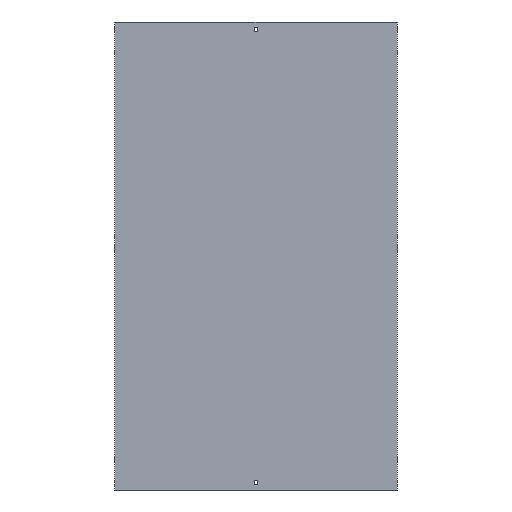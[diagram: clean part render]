
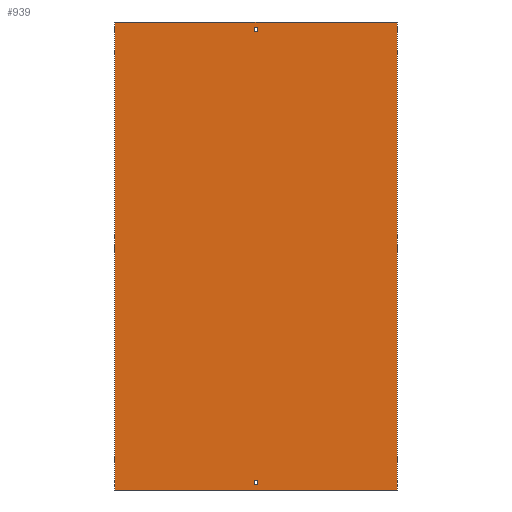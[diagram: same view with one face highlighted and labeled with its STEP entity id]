
A CAD part, front view. The second image highlights one B-rep face of the part: STEP entity #939.
In plain terms, the highlighted planar face has unit normal (0, -1, 0).
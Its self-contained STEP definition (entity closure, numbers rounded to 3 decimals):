
#11 = CARTESIAN_POINT ( 'NONE',  ( -3.25, 0., 479. ) ) ;
#20 = DIRECTION ( 'NONE',  ( -1., 0., 0. ) ) ;
#37 = DIRECTION ( 'NONE',  ( 0., 1., 0. ) ) ;
#76 = DIRECTION ( 'NONE',  ( 0., 0., 1. ) ) ;
#129 = EDGE_LOOP ( 'NONE', ( #945, #1645, #1601, #263 ) ) ;
#132 = DIRECTION ( 'NONE',  ( 1., 0., 0. ) ) ;
#140 = VECTOR ( 'NONE', #411, 1000. ) ;
#154 = CARTESIAN_POINT ( 'NONE',  ( -302., 0., 500. ) ) ;
#178 = LINE ( 'NONE', #211, #795 ) ;
#211 = CARTESIAN_POINT ( 'NONE',  ( 302., 0., 500. ) ) ;
#219 = LINE ( 'NONE', #1170, #1521 ) ;
#261 = VERTEX_POINT ( 'NONE', #428 ) ;
#263 = ORIENTED_EDGE ( 'NONE', *, *, #365, .T. ) ;
#272 = ORIENTED_EDGE ( 'NONE', *, *, #1275, .F. ) ;
#276 = VERTEX_POINT ( 'NONE', #562 ) ;
#305 = DIRECTION ( 'NONE',  ( 0., 0., -1. ) ) ;
#334 = CARTESIAN_POINT ( 'NONE',  ( -3.25, 0., -488. ) ) ;
#335 = CARTESIAN_POINT ( 'NONE',  ( -3.25, 0., -488. ) ) ;
#365 = EDGE_CURVE ( 'NONE', #653, #261, #982, .T. ) ;
#377 = EDGE_CURVE ( 'NONE', #276, #1226, #711, .T. ) ;
#382 = VERTEX_POINT ( 'NONE', #833 ) ;
#387 = VERTEX_POINT ( 'NONE', #1371 ) ;
#411 = DIRECTION ( 'NONE',  ( 1., 0., 0. ) ) ;
#428 = CARTESIAN_POINT ( 'NONE',  ( -302., 0., -500. ) ) ;
#438 = EDGE_LOOP ( 'NONE', ( #272, #648, #676, #1259 ) ) ;
#483 = VERTEX_POINT ( 'NONE', #765 ) ;
#524 = VECTOR ( 'NONE', #1064, 1000. ) ;
#539 = VERTEX_POINT ( 'NONE', #1592 ) ;
#562 = CARTESIAN_POINT ( 'NONE',  ( 3.25, 0., -488. ) ) ;
#597 = VECTOR ( 'NONE', #1497, 1000. ) ;
#604 = VERTEX_POINT ( 'NONE', #1336 ) ;
#607 = DIRECTION ( 'NONE',  ( 0., 0., -1. ) ) ;
#648 = ORIENTED_EDGE ( 'NONE', *, *, #1673, .F. ) ;
#653 = VERTEX_POINT ( 'NONE', #1433 ) ;
#663 = CARTESIAN_POINT ( 'NONE',  ( -3.25, 0., -488. ) ) ;
#676 = ORIENTED_EDGE ( 'NONE', *, *, #1351, .F. ) ;
#692 = LINE ( 'NONE', #1338, #1523 ) ;
#711 = LINE ( 'NONE', #335, #817 ) ;
#715 = LINE ( 'NONE', #1391, #1083 ) ;
#717 = VERTEX_POINT ( 'NONE', #1081 ) ;
#725 = DIRECTION ( 'NONE',  ( 0., 0., 1. ) ) ;
#731 = LINE ( 'NONE', #1626, #929 ) ;
#765 = CARTESIAN_POINT ( 'NONE',  ( 3.25, 0., 479. ) ) ;
#790 = FACE_BOUND ( 'NONE', #851, .T. ) ;
#795 = VECTOR ( 'NONE', #959, 1000. ) ;
#808 = CARTESIAN_POINT ( 'NONE',  ( -302., 0., 500. ) ) ;
#817 = VECTOR ( 'NONE', #1094, 1000. ) ;
#822 = VECTOR ( 'NONE', #607, 1000. ) ;
#833 = CARTESIAN_POINT ( 'NONE',  ( 3.25, 0., 488. ) ) ;
#851 = EDGE_LOOP ( 'NONE', ( #1366, #1413, #1090, #1112 ) ) ;
#855 = LINE ( 'NONE', #334, #1134 ) ;
#868 = AXIS2_PLACEMENT_3D ( 'NONE', #154, #37, #20 ) ;
#873 = EDGE_CURVE ( 'NONE', #261, #387, #1279, .T. ) ;
#916 = FACE_BOUND ( 'NONE', #438, .T. ) ;
#929 = VECTOR ( 'NONE', #76, 1000. ) ;
#939 = ADVANCED_FACE ( 'NONE', ( #949, #916, #790 ), #1199, .F. ) ;
#945 = ORIENTED_EDGE ( 'NONE', *, *, #873, .T. ) ;
#949 = FACE_OUTER_BOUND ( 'NONE', #129, .T. ) ;
#959 = DIRECTION ( 'NONE',  ( 0., 0., -1. ) ) ;
#977 = EDGE_CURVE ( 'NONE', #653, #717, #1065, .T. ) ;
#982 = LINE ( 'NONE', #1473, #597 ) ;
#1034 = DIRECTION ( 'NONE',  ( 1., 0., 0. ) ) ;
#1040 = EDGE_CURVE ( 'NONE', #717, #387, #178, .T. ) ;
#1064 = DIRECTION ( 'NONE',  ( -1., 0., 0. ) ) ;
#1065 = LINE ( 'NONE', #808, #140 ) ;
#1076 = EDGE_CURVE ( 'NONE', #1226, #604, #855, .T. ) ;
#1081 = CARTESIAN_POINT ( 'NONE',  ( 302., 0., 500. ) ) ;
#1083 = VECTOR ( 'NONE', #1228, 1000. ) ;
#1086 = CARTESIAN_POINT ( 'NONE',  ( -3.25, 0., 488. ) ) ;
#1090 = ORIENTED_EDGE ( 'NONE', *, *, #1285, .T. ) ;
#1094 = DIRECTION ( 'NONE',  ( -1., 0., 0. ) ) ;
#1112 = ORIENTED_EDGE ( 'NONE', *, *, #377, .T. ) ;
#1129 = VERTEX_POINT ( 'NONE', #1086 ) ;
#1134 = VECTOR ( 'NONE', #725, 1000. ) ;
#1159 = LINE ( 'NONE', #1578, #822 ) ;
#1170 = CARTESIAN_POINT ( 'NONE',  ( -3.25, 0., 479. ) ) ;
#1197 = CARTESIAN_POINT ( 'NONE',  ( -3.25, 0., 488. ) ) ;
#1199 = PLANE ( 'NONE',  #868 ) ;
#1226 = VERTEX_POINT ( 'NONE', #663 ) ;
#1228 = DIRECTION ( 'NONE',  ( 1., 0., 0. ) ) ;
#1259 = ORIENTED_EDGE ( 'NONE', *, *, #1492, .F. ) ;
#1275 = EDGE_CURVE ( 'NONE', #1293, #483, #219, .T. ) ;
#1279 = LINE ( 'NONE', #1656, #1382 ) ;
#1285 = EDGE_CURVE ( 'NONE', #539, #276, #1159, .T. ) ;
#1293 = VERTEX_POINT ( 'NONE', #11 ) ;
#1336 = CARTESIAN_POINT ( 'NONE',  ( -3.25, 0., -479. ) ) ;
#1338 = CARTESIAN_POINT ( 'NONE',  ( -3.25, 0., 488. ) ) ;
#1351 = EDGE_CURVE ( 'NONE', #382, #1129, #1595, .T. ) ;
#1366 = ORIENTED_EDGE ( 'NONE', *, *, #1076, .T. ) ;
#1371 = CARTESIAN_POINT ( 'NONE',  ( 302., 0., -500. ) ) ;
#1382 = VECTOR ( 'NONE', #1034, 1000. ) ;
#1391 = CARTESIAN_POINT ( 'NONE',  ( -3.25, 0., -479. ) ) ;
#1413 = ORIENTED_EDGE ( 'NONE', *, *, #1474, .T. ) ;
#1433 = CARTESIAN_POINT ( 'NONE',  ( -302., 0., 500. ) ) ;
#1473 = CARTESIAN_POINT ( 'NONE',  ( -302., 0., 500. ) ) ;
#1474 = EDGE_CURVE ( 'NONE', #604, #539, #715, .T. ) ;
#1492 = EDGE_CURVE ( 'NONE', #483, #382, #731, .T. ) ;
#1497 = DIRECTION ( 'NONE',  ( 0., 0., -1. ) ) ;
#1521 = VECTOR ( 'NONE', #132, 1000. ) ;
#1523 = VECTOR ( 'NONE', #305, 1000. ) ;
#1578 = CARTESIAN_POINT ( 'NONE',  ( 3.25, 0., -488. ) ) ;
#1592 = CARTESIAN_POINT ( 'NONE',  ( 3.25, 0., -479. ) ) ;
#1595 = LINE ( 'NONE', #1197, #524 ) ;
#1601 = ORIENTED_EDGE ( 'NONE', *, *, #977, .F. ) ;
#1626 = CARTESIAN_POINT ( 'NONE',  ( 3.25, 0., 488. ) ) ;
#1645 = ORIENTED_EDGE ( 'NONE', *, *, #1040, .F. ) ;
#1656 = CARTESIAN_POINT ( 'NONE',  ( -302., 0., -500. ) ) ;
#1673 = EDGE_CURVE ( 'NONE', #1129, #1293, #692, .T. ) ;
